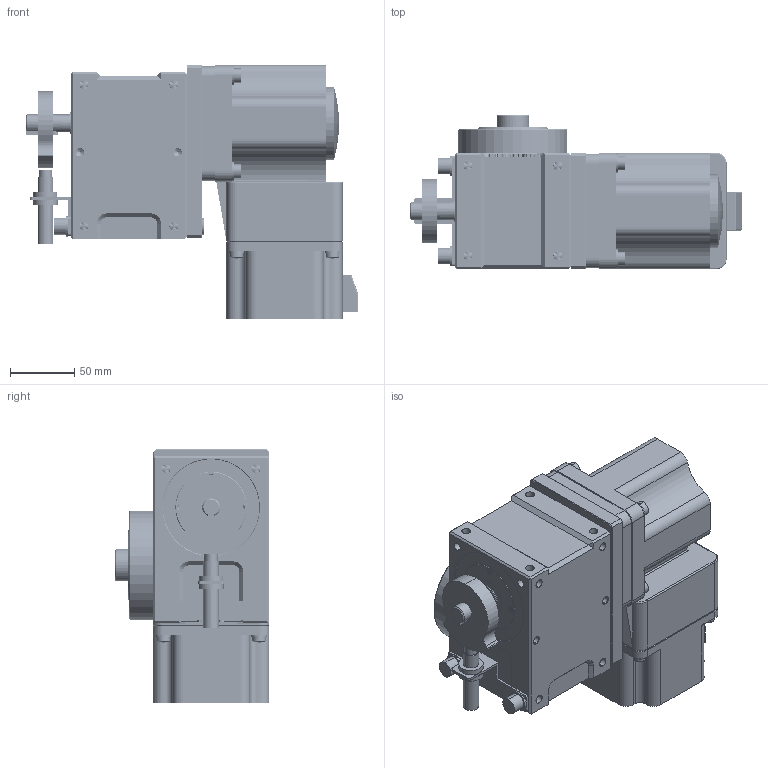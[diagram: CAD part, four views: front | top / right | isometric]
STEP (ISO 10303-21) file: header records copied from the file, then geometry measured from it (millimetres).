
FILE_DESCRIPTION (( 'STEP AP214' ), '1' );
FILE_NAME ('ER-RU45DF英锐凸轮分割器壳体法兰面销孔3D水平直联式右侧ZDWS(电话15062628977)AA.STEP', '2023-01-07T07:49:27', ( '微软用户' ), ( '微软中国' ), 'SwSTEP 2.0', 'SolidWorks 2017', '' );
FILE_SCHEMA (( 'AUTOMOTIVE_DESIGN' ));
Length unit declared in the file: millimetre
Products named in the file (1): ER-RU45DF英锐凸轮分割器壳体法兰面销孔3D水平直联式右侧ZDWS(电话15062628977)AA
Bounding box: 258.25 x 120.25 x 197.25 mm (x, y, z)
Volume: 2757615.9 mm3; surface area: 242178.4 mm2
Topology: 4 solids, 47 shells, 2655 faces, 6817 edges, 4346 vertices
Faces by surface type: cylinder 1324, plane 650, bspline 477, cone 192, torus 8, sphere 4
Entity records: 238297 total; most frequent: CARTESIAN_POINT 155969, ORIENTED_EDGE 13462, DIRECTION 8655, EDGE_CURVE 6731, VERTEX_POINT 4346, AXIS2_PLACEMENT_3D 3021, EDGE_LOOP 2853, FACE_OUTER_BOUND 2655
